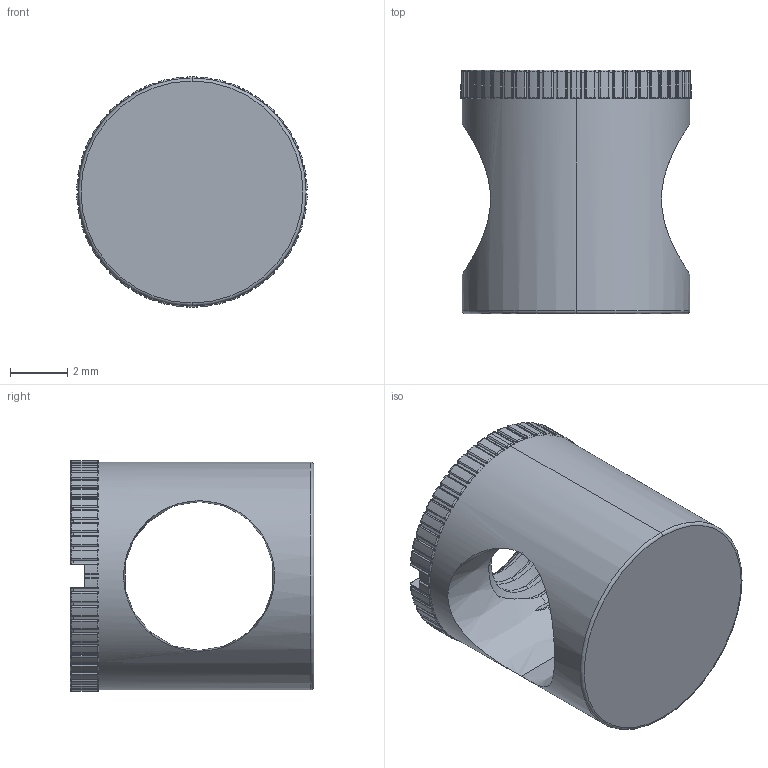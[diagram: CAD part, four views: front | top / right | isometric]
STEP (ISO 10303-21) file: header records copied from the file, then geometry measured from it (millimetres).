
FILE_DESCRIPTION (( 'STEP AP203' ), '1' );
FILE_NAME ('11.03.480 Cylinder f. Mini system S.STEP', '2024-03-06T11:37:52', ( '' ), ( '' ), 'SwSTEP 2.0', 'SolidWorks 2024', '' );
FILE_SCHEMA (( 'CONFIG_CONTROL_DESIGN' ));
Products named in the file (1): 11.03.480 Cylinder f. Mini system S
Bounding box: 8.05 x 8.5 x 8.05 mm (x, y, z)
Surface area: 400.4 mm2 (no closed solid volume)
Topology: 0 solids, 1 shells, 745 faces, 2192 edges, 1242 vertices
Faces by surface type: cylinder 303, sphere 246, torus 148, plane 33, bspline 8, cone 7
Entity records: 39715 total; most frequent: CARTESIAN_POINT 21626, DIRECTION 4110, ORIENTED_EDGE 3469, EDGE_CURVE 2000, AXIS2_PLACEMENT_3D 1762, VERTEX_POINT 1150, CIRCLE 1024, EDGE_LOOP 747
